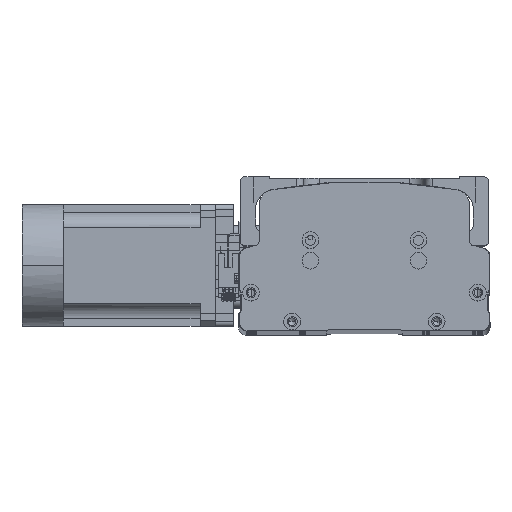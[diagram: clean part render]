
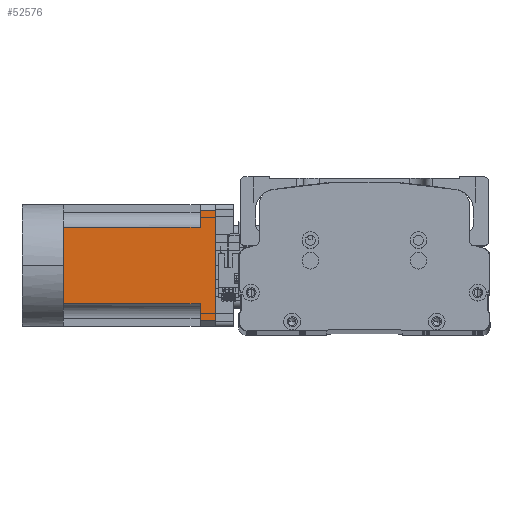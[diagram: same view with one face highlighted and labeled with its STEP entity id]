
A CAD part, top view. The second image highlights one B-rep face of the part: STEP entity #52576.
In plain terms, the highlighted planar face has unit normal (0, -0.003, 1) as drawn and (0, 0, -1) by its records, which use the part's own axes.
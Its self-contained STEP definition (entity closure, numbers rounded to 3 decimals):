
#2345 = ORIENTED_EDGE ( 'NONE', *, *, #9920, .T. ) ;
#3111 = LINE ( 'NONE', #5318, #22241 ) ;
#3125 = CARTESIAN_POINT ( 'NONE',  ( -40., 0., -40. ) ) ;
#3361 = VERTEX_POINT ( 'NONE', #13157 ) ;
#3509 = DIRECTION ( 'NONE',  ( -1., 0., 0. ) ) ;
#4318 = CARTESIAN_POINT ( 'NONE',  ( -40., 100., -40. ) ) ;
#4531 = ORIENTED_EDGE ( 'NONE', *, *, #38497, .T. ) ;
#5239 = ORIENTED_EDGE ( 'NONE', *, *, #7656, .T. ) ;
#5271 = DIRECTION ( 'NONE',  ( 0., 1., 0. ) ) ;
#5318 = CARTESIAN_POINT ( 'NONE',  ( -40., 0., -40. ) ) ;
#6580 = ORIENTED_EDGE ( 'NONE', *, *, #26746, .T. ) ;
#6832 = EDGE_CURVE ( 'NONE', #10769, #25005, #43449, .T. ) ;
#6871 = EDGE_CURVE ( 'NONE', #3361, #7139, #38270, .T. ) ;
#7139 = VERTEX_POINT ( 'NONE', #13238 ) ;
#7656 = EDGE_CURVE ( 'NONE', #7139, #16327, #3111, .T. ) ;
#9428 = CARTESIAN_POINT ( 'NONE',  ( -36., 90., -40. ) ) ;
#9920 = EDGE_CURVE ( 'NONE', #14665, #48562, #20796, .T. ) ;
#9975 = VECTOR ( 'NONE', #24006, 1000. ) ;
#10636 = DIRECTION ( 'NONE',  ( -1., 0., 0. ) ) ;
#10769 = VERTEX_POINT ( 'NONE', #24476 ) ;
#10788 = DIRECTION ( 'NONE',  ( 0., -1., 0. ) ) ;
#10812 = VECTOR ( 'NONE', #10788, 1000. ) ;
#11105 = VECTOR ( 'NONE', #50080, 1000. ) ;
#12973 = VECTOR ( 'NONE', #5271, 1000. ) ;
#13157 = CARTESIAN_POINT ( 'NONE',  ( 25., 0., -40. ) ) ;
#13238 = CARTESIAN_POINT ( 'NONE',  ( 0., 0., -40. ) ) ;
#14665 = VERTEX_POINT ( 'NONE', #28699 ) ;
#16327 = VERTEX_POINT ( 'NONE', #20667 ) ;
#17370 = CARTESIAN_POINT ( 'NONE',  ( 25., -27., -40. ) ) ;
#17862 = CARTESIAN_POINT ( 'NONE',  ( 25., 90., -40. ) ) ;
#18956 = CARTESIAN_POINT ( 'NONE',  ( 36., -27., -40. ) ) ;
#19694 = CARTESIAN_POINT ( 'NONE',  ( -40., -27., -40. ) ) ;
#20044 = VECTOR ( 'NONE', #46032, 1000. ) ;
#20050 = EDGE_CURVE ( 'NONE', #16327, #14665, #25111, .T. ) ;
#20072 = ORIENTED_EDGE ( 'NONE', *, *, #20050, .T. ) ;
#20667 = CARTESIAN_POINT ( 'NONE',  ( -25., 0., -40. ) ) ;
#20796 = LINE ( 'NONE', #44755, #9975 ) ;
#22241 = VECTOR ( 'NONE', #33939, 1000. ) ;
#22411 = CARTESIAN_POINT ( 'NONE',  ( 36., 90., -40. ) ) ;
#22782 = CARTESIAN_POINT ( 'NONE',  ( -40., 90., -40. ) ) ;
#23008 = ORIENTED_EDGE ( 'NONE', *, *, #6832, .T. ) ;
#24006 = DIRECTION ( 'NONE',  ( -1., 0., 0. ) ) ;
#24476 = CARTESIAN_POINT ( 'NONE',  ( 36., 100., -40. ) ) ;
#25005 = VERTEX_POINT ( 'NONE', #22411 ) ;
#25111 = LINE ( 'NONE', #33886, #12973 ) ;
#25554 = CARTESIAN_POINT ( 'NONE',  ( -36., -27., -40. ) ) ;
#26552 = VECTOR ( 'NONE', #10636, 1000. ) ;
#26746 = EDGE_CURVE ( 'NONE', #25005, #39099, #37451, .T. ) ;
#26897 = ORIENTED_EDGE ( 'NONE', *, *, #6871, .T. ) ;
#27401 = VECTOR ( 'NONE', #31714, 1000. ) ;
#27953 = DIRECTION ( 'NONE',  ( 0., 0., -1. ) ) ;
#28699 = CARTESIAN_POINT ( 'NONE',  ( -25., 90., -40. ) ) ;
#28787 = DIRECTION ( 'NONE',  ( -1., 0., 0. ) ) ;
#31599 = LINE ( 'NONE', #25554, #11105 ) ;
#31714 = DIRECTION ( 'NONE',  ( -1., 0., 0. ) ) ;
#33143 = CARTESIAN_POINT ( 'NONE',  ( -36., 100., -40. ) ) ;
#33886 = CARTESIAN_POINT ( 'NONE',  ( -25., -27., -40. ) ) ;
#33939 = DIRECTION ( 'NONE',  ( -1., 0., 0. ) ) ;
#37451 = LINE ( 'NONE', #22782, #26552 ) ;
#37603 = EDGE_LOOP ( 'NONE', ( #46458, #23008, #6580, #4531, #26897, #5239, #20072, #2345, #52646 ) ) ;
#38270 = LINE ( 'NONE', #3125, #27401 ) ;
#38497 = EDGE_CURVE ( 'NONE', #39099, #3361, #44446, .T. ) ;
#39099 = VERTEX_POINT ( 'NONE', #17862 ) ;
#40732 = LINE ( 'NONE', #4318, #51654 ) ;
#41256 = AXIS2_PLACEMENT_3D ( 'NONE', #19694, #27953, #3509 ) ;
#42683 = EDGE_CURVE ( 'NONE', #10769, #44969, #40732, .T. ) ;
#43449 = LINE ( 'NONE', #18956, #10812 ) ;
#43905 = PLANE ( 'NONE',  #41256 ) ;
#44446 = LINE ( 'NONE', #17370, #20044 ) ;
#44755 = CARTESIAN_POINT ( 'NONE',  ( -40., 90., -40. ) ) ;
#44969 = VERTEX_POINT ( 'NONE', #33143 ) ;
#46032 = DIRECTION ( 'NONE',  ( 0., -1., 0. ) ) ;
#46458 = ORIENTED_EDGE ( 'NONE', *, *, #42683, .F. ) ;
#48562 = VERTEX_POINT ( 'NONE', #9428 ) ;
#49500 = FACE_OUTER_BOUND ( 'NONE', #37603, .T. ) ;
#50080 = DIRECTION ( 'NONE',  ( 0., 1., 0. ) ) ;
#51654 = VECTOR ( 'NONE', #28787, 1000. ) ;
#52576 = ADVANCED_FACE ( 'NONE', ( #49500 ), #43905, .T. ) ;
#52646 = ORIENTED_EDGE ( 'NONE', *, *, #52853, .T. ) ;
#52853 = EDGE_CURVE ( 'NONE', #48562, #44969, #31599, .T. ) ;
